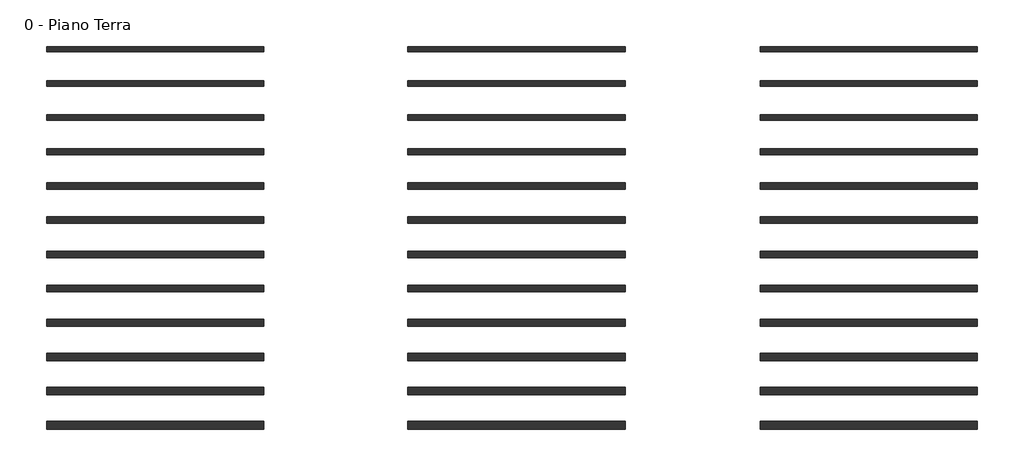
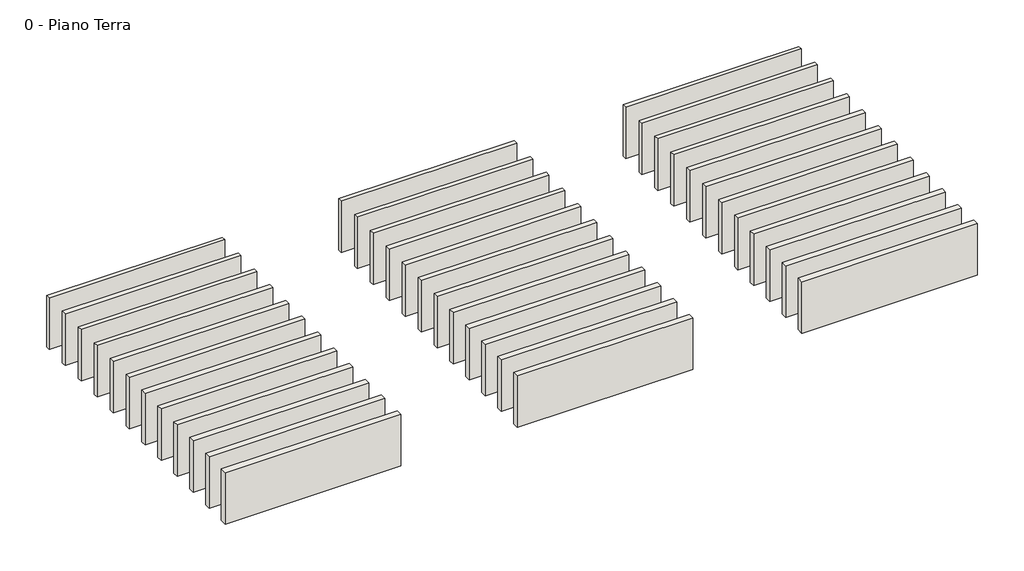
# One storey: 36 walls.
"""IFC4 building model written with IfcOpenShell, lengths in millimetres."""

from ifc_helpers import new_model, si_unit, origin, origin_with_axes, place, context, project, spatial, polyline, outline, extrude, element, save

model = new_model("IFC4")

# Units and contexts
model_context = context("Model", 3, world=origin())
ifc_project = project(units=[si_unit("LENGTHUNIT", "METRE", prefix="MILLI")], contexts=[model_context])

# Site, building, storey
site = spatial("IfcSite", under=ifc_project)
building = spatial("IfcBuilding", under=site)
storey = spatial("IfcBuildingStorey", under=building, Name="0 - Piano Terra", Elevation=0.0)

# Walls
placement = place(None, origin())
element("IfcWall", 1, ObjectType="Cappotto interno in aderenza STIFERITE RP ʎd 0,022 W/mK 33mm", at=placement, inside=storey, context=model_context, shape_type="SweptSolid", body=[
    extrude(outline(polyline([(12374.500829, 31956.9008029), (2374.500829, 31956.9008029), (2374.500829, 32200.4008029), (12374.500829, 32200.4008029), (12374.500829, 31956.9008029)])), origin_with_axes(), (0.0, 0.0, 1.0), 3100.0),
])
element("IfcWall", 2, ObjectType="Cappotto interno in aderenza STIFERITE RP WP ʎd 0,022 W/mK 33mm", at=placement, inside=storey, context=model_context, shape_type="SweptSolid", body=[
    extrude(outline(polyline([(29000.0, 31956.9008029), (19000.0, 31956.9008029), (19000.0, 32200.4008029), (29000.0, 32200.4008029), (29000.0, 31956.9008029)])), origin_with_axes(), (0.0, 0.0, 1.0), 3100.0),
])
element("IfcWall", 3, ObjectType="Cappotto interno in aderenza STIFERITE RP A1 ʎd 0,022 W/mK 33mm", at=placement, inside=storey, context=model_context, shape_type="SweptSolid", body=[
    extrude(outline(polyline([(45193.2727471, 31956.9008029), (35193.2727471, 31956.9008029), (35193.2727471, 32200.4008029), (45193.2727471, 32200.4008029), (45193.2727471, 31956.9008029)])), origin_with_axes(), (0.0, 0.0, 1.0), 3100.0),
])
element("IfcWall", 4, ObjectType="Cappotto interno in aderenza STIFERITE RP ʎd 0,022 W/mK 43mm", at=placement, inside=storey, context=model_context, shape_type="SweptSolid", body=[
    extrude(outline(polyline([(12374.500829, 30379.1735302), (2374.500829, 30379.1735302), (2374.500829, 30632.6735302), (12374.500829, 30632.6735302), (12374.500829, 30379.1735302)])), origin_with_axes(), (0.0, 0.0, 1.0), 3100.0),
])
element("IfcWall", 5, ObjectType="Cappotto interno in aderenza STIFERITE RP ʎd 0,022 W/mK 53mm", at=placement, inside=storey, context=model_context, shape_type="SweptSolid", body=[
    extrude(outline(polyline([(12374.500829, 28801.4462575), (2374.500829, 28801.4462575), (2374.500829, 29064.9462575), (12374.500829, 29064.9462575), (12374.500829, 28801.4462575)])), origin_with_axes(), (0.0, 0.0, 1.0), 3100.0),
])
element("IfcWall", 6, ObjectType="Cappotto interno in aderenza STIFERITE RP ʎd 0,022 W/mK 63mm", at=placement, inside=storey, context=model_context, shape_type="SweptSolid", body=[
    extrude(outline(polyline([(12374.500829, 27223.7189847), (2374.500829, 27223.7189847), (2374.500829, 27497.2189847), (12374.500829, 27497.2189847), (12374.500829, 27223.7189847)])), origin_with_axes(), (0.0, 0.0, 1.0), 3100.0),
])
element("IfcWall", 7, ObjectType="Cappotto interno in aderenza STIFERITE RP ʎd 0,022 W/mK 73mm", at=placement, inside=storey, context=model_context, shape_type="SweptSolid", body=[
    extrude(outline(polyline([(12374.500829, 25645.991712), (2374.500829, 25645.991712), (2374.500829, 25929.491712), (12374.500829, 25929.491712), (12374.500829, 25645.991712)])), origin_with_axes(), (0.0, 0.0, 1.0), 3100.0),
])
element("IfcWall", 8, ObjectType="Cappotto interno in aderenza STIFERITE RP ʎd 0,022 W/mK 83mm", at=placement, inside=storey, context=model_context, shape_type="SweptSolid", body=[
    extrude(outline(polyline([(12374.500829, 24068.2644393), (2374.500829, 24068.2644393), (2374.500829, 24361.7644393), (12374.500829, 24361.7644393), (12374.500829, 24068.2644393)])), origin_with_axes(), (0.0, 0.0, 1.0), 3100.0),
])
element("IfcWall", 9, ObjectType="Cappotto interno in aderenza STIFERITE RP ʎd 0,022 W/mK 93mm", at=placement, inside=storey, context=model_context, shape_type="SweptSolid", body=[
    extrude(outline(polyline([(12374.500829, 22490.5371666), (2374.500829, 22490.5371666), (2374.500829, 22794.0371666), (12374.500829, 22794.0371666), (12374.500829, 22490.5371666)])), origin_with_axes(), (0.0, 0.0, 1.0), 3100.0),
])
element("IfcWall", 10, ObjectType="Cappotto interno in aderenza STIFERITE RP ʎd 0,022 W/mK 103mm", at=placement, inside=storey, context=model_context, shape_type="SweptSolid", body=[
    extrude(outline(polyline([(12374.500829, 20912.8098938), (2374.500829, 20912.8098938), (2374.500829, 21226.3098938), (12374.500829, 21226.3098938), (12374.500829, 20912.8098938)])), origin_with_axes(), (0.0, 0.0, 1.0), 3100.0),
])
element("IfcWall", 11, ObjectType="Cappotto interno in aderenza STIFERITE RP ʎd 0,022 W/mK 113mm", at=placement, inside=storey, context=model_context, shape_type="SweptSolid", body=[
    extrude(outline(polyline([(12374.500829, 19335.0826211), (2374.500829, 19335.0826211), (2374.500829, 19658.5826211), (12374.500829, 19658.5826211), (12374.500829, 19335.0826211)])), origin_with_axes(), (0.0, 0.0, 1.0), 3100.0),
])
element("IfcWall", 12, ObjectType="Cappotto interno in aderenza STIFERITE RP ʎd 0,022 W/mK 123mm", at=placement, inside=storey, context=model_context, shape_type="SweptSolid", body=[
    extrude(outline(polyline([(12374.500829, 17757.3553484), (2374.500829, 17757.3553484), (2374.500829, 18090.8553484), (12374.500829, 18090.8553484), (12374.500829, 17757.3553484)])), origin_with_axes(), (0.0, 0.0, 1.0), 3100.0),
])
element("IfcWall", 13, ObjectType="Cappotto interno in aderenza STIFERITE RP ʎd 0,022 W/mK 133mm", at=placement, inside=storey, context=model_context, shape_type="SweptSolid", body=[
    extrude(outline(polyline([(12374.500829, 16179.6280757), (2374.500829, 16179.6280757), (2374.500829, 16523.1280757), (12374.500829, 16523.1280757), (12374.500829, 16179.6280757)])), origin_with_axes(), (0.0, 0.0, 1.0), 3100.0),
])
element("IfcWall", 14, ObjectType="Cappotto interno in aderenza STIFERITE RP ʎd 0,022 W/mK 153mm", at=placement, inside=storey, context=model_context, shape_type="SweptSolid", body=[
    extrude(outline(polyline([(12374.500829, 14596.9008029), (2374.500829, 14596.9008029), (2374.500829, 14960.4008029), (12374.500829, 14960.4008029), (12374.500829, 14596.9008029)])), origin_with_axes(), (0.0, 0.0, 1.0), 3100.0),
])
element("IfcWall", 15, ObjectType="Cappotto interno in aderenza STIFERITE RP WP ʎd 0,022 W/mK 43mm", at=placement, inside=storey, context=model_context, shape_type="SweptSolid", body=[
    extrude(outline(polyline([(29000.0, 30379.1735302), (19000.0, 30379.1735302), (19000.0, 30632.6735302), (29000.0, 30632.6735302), (29000.0, 30379.1735302)])), origin_with_axes(), (0.0, 0.0, 1.0), 3100.0),
])
element("IfcWall", 16, ObjectType="Cappotto interno in aderenza STIFERITE RP A1 ʎd 0,022 W/mK 43mm", at=placement, inside=storey, context=model_context, shape_type="SweptSolid", body=[
    extrude(outline(polyline([(45193.2727471, 30379.1735302), (35193.2727471, 30379.1735302), (35193.2727471, 30632.6735302), (45193.2727471, 30632.6735302), (45193.2727471, 30379.1735302)])), origin_with_axes(), (0.0, 0.0, 1.0), 3100.0),
])
element("IfcWall", 17, ObjectType="Cappotto interno in aderenza STIFERITE RP WP ʎd 0,022 W/mK 53mm", at=placement, inside=storey, context=model_context, shape_type="SweptSolid", body=[
    extrude(outline(polyline([(29000.0, 28801.4462575), (19000.0, 28801.4462575), (19000.0, 29064.9462575), (29000.0, 29064.9462575), (29000.0, 28801.4462575)])), origin_with_axes(), (0.0, 0.0, 1.0), 3100.0),
])
element("IfcWall", 18, ObjectType="Cappotto interno in aderenza STIFERITE RP A1 ʎd 0,022 W/mK 53mm", at=placement, inside=storey, context=model_context, shape_type="SweptSolid", body=[
    extrude(outline(polyline([(45193.2727471, 28801.4462575), (35193.2727471, 28801.4462575), (35193.2727471, 29064.9462575), (45193.2727471, 29064.9462575), (45193.2727471, 28801.4462575)])), origin_with_axes(), (0.0, 0.0, 1.0), 3100.0),
])
element("IfcWall", 19, ObjectType="Cappotto interno in aderenza STIFERITE RP WP ʎd 0,022 W/mK 63mm", at=placement, inside=storey, context=model_context, shape_type="SweptSolid", body=[
    extrude(outline(polyline([(29000.0, 27223.7189847), (19000.0, 27223.7189847), (19000.0, 27497.2189847), (29000.0, 27497.2189847), (29000.0, 27223.7189847)])), origin_with_axes(), (0.0, 0.0, 1.0), 3100.0),
])
element("IfcWall", 20, ObjectType="Cappotto interno in aderenza STIFERITE RP A1 ʎd 0,022 W/mK 63mm", at=placement, inside=storey, context=model_context, shape_type="SweptSolid", body=[
    extrude(outline(polyline([(45193.2727471, 27223.7189847), (35193.2727471, 27223.7189847), (35193.2727471, 27497.2189847), (45193.2727471, 27497.2189847), (45193.2727471, 27223.7189847)])), origin_with_axes(), (0.0, 0.0, 1.0), 3100.0),
])
element("IfcWall", 21, ObjectType="Cappotto interno in aderenza STIFERITE RP WP ʎd 0,022 W/mK 73mm", at=placement, inside=storey, context=model_context, shape_type="SweptSolid", body=[
    extrude(outline(polyline([(29000.0, 25645.991712), (19000.0, 25645.991712), (19000.0, 25929.491712), (29000.0, 25929.491712), (29000.0, 25645.991712)])), origin_with_axes(), (0.0, 0.0, 1.0), 3100.0),
])
element("IfcWall", 22, ObjectType="Cappotto interno in aderenza STIFERITE RP A1 ʎd 0,022 W/mK 73mm", at=placement, inside=storey, context=model_context, shape_type="SweptSolid", body=[
    extrude(outline(polyline([(45193.2727471, 25645.991712), (35193.2727471, 25645.991712), (35193.2727471, 25929.491712), (45193.2727471, 25929.491712), (45193.2727471, 25645.991712)])), origin_with_axes(), (0.0, 0.0, 1.0), 3100.0),
])
element("IfcWall", 23, ObjectType="Cappotto interno in aderenza STIFERITE RP WP ʎd 0,022 W/mK 83mm", at=placement, inside=storey, context=model_context, shape_type="SweptSolid", body=[
    extrude(outline(polyline([(29000.0, 24068.2644393), (19000.0, 24068.2644393), (19000.0, 24361.7644393), (29000.0, 24361.7644393), (29000.0, 24068.2644393)])), origin_with_axes(), (0.0, 0.0, 1.0), 3100.0),
])
element("IfcWall", 24, ObjectType="Cappotto interno in aderenza STIFERITE RP A1 ʎd 0,022 W/mK 83mm", at=placement, inside=storey, context=model_context, shape_type="SweptSolid", body=[
    extrude(outline(polyline([(45193.2727471, 24068.2644393), (35193.2727471, 24068.2644393), (35193.2727471, 24361.7644393), (45193.2727471, 24361.7644393), (45193.2727471, 24068.2644393)])), origin_with_axes(), (0.0, 0.0, 1.0), 3100.0),
])
element("IfcWall", 25, ObjectType="Cappotto interno in aderenza STIFERITE RP WP ʎd 0,022 W/mK 93mm", at=placement, inside=storey, context=model_context, shape_type="SweptSolid", body=[
    extrude(outline(polyline([(29000.0, 22490.5371666), (19000.0, 22490.5371666), (19000.0, 22794.0371666), (29000.0, 22794.0371666), (29000.0, 22490.5371666)])), origin_with_axes(), (0.0, 0.0, 1.0), 3100.0),
])
element("IfcWall", 26, ObjectType="Cappotto interno in aderenza STIFERITE RP A1 ʎd 0,022 W/mK 93mm", at=placement, inside=storey, context=model_context, shape_type="SweptSolid", body=[
    extrude(outline(polyline([(45193.2727471, 22490.5371666), (35193.2727471, 22490.5371666), (35193.2727471, 22794.0371666), (45193.2727471, 22794.0371666), (45193.2727471, 22490.5371666)])), origin_with_axes(), (0.0, 0.0, 1.0), 3100.0),
])
element("IfcWall", 27, ObjectType="Cappotto interno in aderenza STIFERITE RP WP ʎd 0,022 W/mK 103mm", at=placement, inside=storey, context=model_context, shape_type="SweptSolid", body=[
    extrude(outline(polyline([(29000.0, 20912.8098938), (19000.0, 20912.8098938), (19000.0, 21226.3098938), (29000.0, 21226.3098938), (29000.0, 20912.8098938)])), origin_with_axes(), (0.0, 0.0, 1.0), 3100.0),
])
element("IfcWall", 28, ObjectType="Cappotto interno in aderenza STIFERITE RP A1 ʎd 0,022 W/mK 103mm", at=placement, inside=storey, context=model_context, shape_type="SweptSolid", body=[
    extrude(outline(polyline([(45193.2727471, 20912.8098938), (35193.2727471, 20912.8098938), (35193.2727471, 21226.3098938), (45193.2727471, 21226.3098938), (45193.2727471, 20912.8098938)])), origin_with_axes(), (0.0, 0.0, 1.0), 3100.0),
])
element("IfcWall", 29, ObjectType="Cappotto interno in aderenza STIFERITE RP WP ʎd 0,022 W/mK 113mm", at=placement, inside=storey, context=model_context, shape_type="SweptSolid", body=[
    extrude(outline(polyline([(29000.0, 19335.0826211), (19000.0, 19335.0826211), (19000.0, 19658.5826211), (29000.0, 19658.5826211), (29000.0, 19335.0826211)])), origin_with_axes(), (0.0, 0.0, 1.0), 3100.0),
])
element("IfcWall", 30, ObjectType="Cappotto interno in aderenza STIFERITE RP A1 ʎd 0,022 W/mK 113mm", at=placement, inside=storey, context=model_context, shape_type="SweptSolid", body=[
    extrude(outline(polyline([(45193.2727471, 19335.0826211), (35193.2727471, 19335.0826211), (35193.2727471, 19658.5826211), (45193.2727471, 19658.5826211), (45193.2727471, 19335.0826211)])), origin_with_axes(), (0.0, 0.0, 1.0), 3100.0),
])
element("IfcWall", 31, ObjectType="Cappotto interno in aderenza STIFERITE RP WP ʎd 0,022 W/mK 123mm", at=placement, inside=storey, context=model_context, shape_type="SweptSolid", body=[
    extrude(outline(polyline([(29000.0, 17757.3553484), (19000.0, 17757.3553484), (19000.0, 18090.8553484), (29000.0, 18090.8553484), (29000.0, 17757.3553484)])), origin_with_axes(), (0.0, 0.0, 1.0), 3100.0),
])
element("IfcWall", 32, ObjectType="Cappotto interno in aderenza STIFERITE RP A1 ʎd 0,022 W/mK 123mm", at=placement, inside=storey, context=model_context, shape_type="SweptSolid", body=[
    extrude(outline(polyline([(45193.2727471, 17757.3553484), (35193.2727471, 17757.3553484), (35193.2727471, 18090.8553484), (45193.2727471, 18090.8553484), (45193.2727471, 17757.3553484)])), origin_with_axes(), (0.0, 0.0, 1.0), 3100.0),
])
element("IfcWall", 33, ObjectType="Cappotto interno in aderenza STIFERITE RP WP ʎd 0,022 W/mK 133mm", at=placement, inside=storey, context=model_context, shape_type="SweptSolid", body=[
    extrude(outline(polyline([(29000.0, 16179.6280757), (19000.0, 16179.6280757), (19000.0, 16523.1280757), (29000.0, 16523.1280757), (29000.0, 16179.6280757)])), origin_with_axes(), (0.0, 0.0, 1.0), 3100.0),
])
element("IfcWall", 34, ObjectType="Cappotto interno in aderenza STIFERITE RP A1 ʎd 0,022 W/mK 133mm", at=placement, inside=storey, context=model_context, shape_type="SweptSolid", body=[
    extrude(outline(polyline([(45193.2727471, 16179.6280757), (35193.2727471, 16179.6280757), (35193.2727471, 16523.1280757), (45193.2727471, 16523.1280757), (45193.2727471, 16179.6280757)])), origin_with_axes(), (0.0, 0.0, 1.0), 3100.0),
])
element("IfcWall", 35, ObjectType="Cappotto interno in aderenza STIFERITE RP WP ʎd 0,022 W/mK 153mm", at=placement, inside=storey, context=model_context, shape_type="SweptSolid", body=[
    extrude(outline(polyline([(29000.0, 14596.9008029), (19000.0, 14596.9008029), (19000.0, 14960.4008029), (29000.0, 14960.4008029), (29000.0, 14596.9008029)])), origin_with_axes(), (0.0, 0.0, 1.0), 3100.0),
])
element("IfcWall", 36, ObjectType="Cappotto interno in aderenza STIFERITE RP A1 ʎd 0,022 W/mK 153mm", at=placement, inside=storey, context=model_context, shape_type="SweptSolid", body=[
    extrude(outline(polyline([(45193.2727471, 14596.9008029), (35193.2727471, 14596.9008029), (35193.2727471, 14960.4008029), (45193.2727471, 14960.4008029), (45193.2727471, 14596.9008029)])), origin_with_axes(), (0.0, 0.0, 1.0), 3100.0),
])

save(model, "model.ifc")
